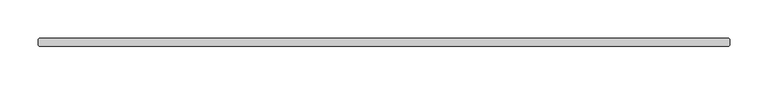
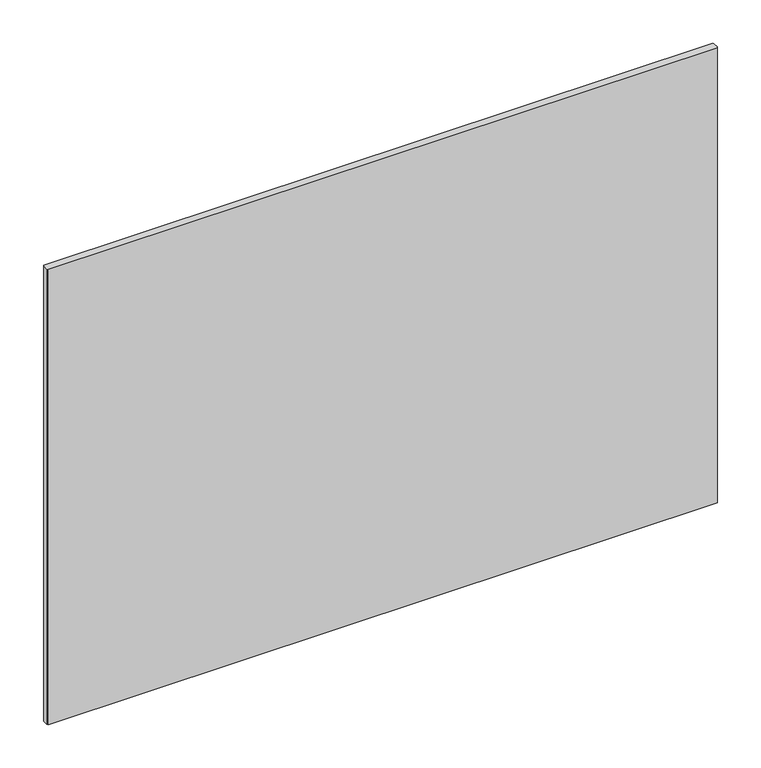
"""IFC4 building model written with IfcOpenShell, lengths in millimetres: plate geometry, Panel Flex Glassline : Panel Flex Glassline."""

from ifc_helpers import new_model, si_unit, origin, origin_with_axes, place, context, project, spatial, polyline, outline, extrude, source, transform, mapped, element, save


def plate_a2abe902(model_context):
    return source(origin(), model_context, "Body", "SweptSolid", [
        extrude(outline(polyline([(448.5, 12.0), (449.5, 11.0), (449.5, 3.0), (448.5, 2.0), (-448.5, 2.0), (-449.5, 3.0), (-449.5, 11.0), (-448.5, 12.0), (448.5, 12.0)])), origin_with_axes(), (0.0, 0.0, 1.0), 644.999955),
    ])


if __name__ == "__main__":
    model = new_model("IFC4")
    model_context = context("Model", 3, world=origin())
    ifc_project = project(units=[si_unit("LENGTHUNIT", "METRE", prefix="MILLI")], contexts=[model_context])
    site = spatial("IfcSite", under=ifc_project)
    building = spatial("IfcBuilding", under=site)
    placement = place(None, origin())
    plate_shape = plate_a2abe902(model_context)
    element("IfcPlate", 1, ObjectType="Panel Flex Glassline : Panel Flex Glassline", at=placement, inside=building, context=model_context, shape_type="MappedRepresentation", body=[
        mapped(plate_shape, transform((0.0, 0.0, 0.0), x_axis=(1.0, 0.0, 0.0), y_axis=(0.0, 1.0, 0.0), z_axis=(0.0, 0.0, 1.0))),
    ])
    save(model, "model.ifc")
